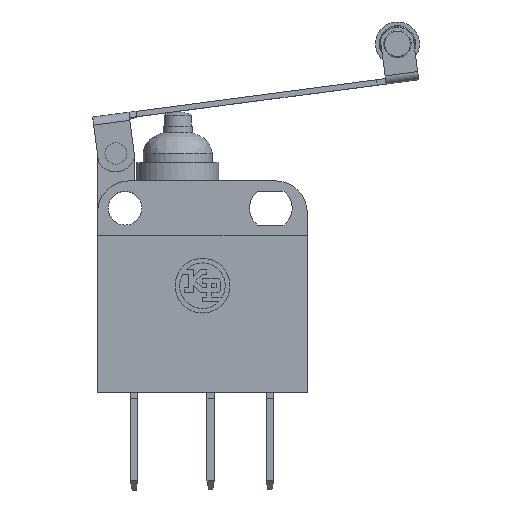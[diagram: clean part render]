
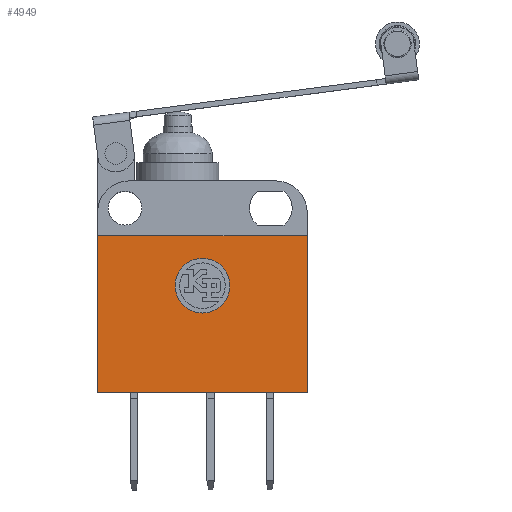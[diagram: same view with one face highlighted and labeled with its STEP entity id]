
A CAD part, top view. The second image highlights one B-rep face of the part: STEP entity #4949.
In plain terms, the highlighted planar face has unit normal (0, 0, 1).
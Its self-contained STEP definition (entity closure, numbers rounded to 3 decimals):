
#4234=CARTESIAN_POINT('',(20.,-3.,4.55));
#4235=VERTEX_POINT('',#4234);
#4242=CARTESIAN_POINT('',(20.,-20.2,4.55));
#4243=VERTEX_POINT('',#4242);
#4244=CARTESIAN_POINT('',(20.,-3.,4.55));
#4245=DIRECTION('',(0.0,-1.0,0.0));
#4246=VECTOR('',#4245,17.2);
#4247=LINE('',#4244,#4246);
#4248=EDGE_CURVE('',#4235,#4243,#4247,.T.);
#4417=CARTESIAN_POINT('',(-3.,-3.,4.55));
#4418=VERTEX_POINT('',#4417);
#4419=CARTESIAN_POINT('',(-3.,-3.,4.55));
#4420=DIRECTION('',(1.0,0.0,0.0));
#4421=VECTOR('',#4420,23.);
#4422=LINE('',#4419,#4421);
#4423=EDGE_CURVE('',#4418,#4235,#4422,.T.);
#4634=CARTESIAN_POINT('',(-3.,-20.2,4.55));
#4635=VERTEX_POINT('',#4634);
#4636=CARTESIAN_POINT('',(20.,-20.2,4.55));
#4637=DIRECTION('',(-1.0,0.0,0.0));
#4638=VECTOR('',#4637,23.);
#4639=LINE('',#4636,#4638);
#4640=EDGE_CURVE('',#4243,#4635,#4639,.T.);
#4922=CARTESIAN_POINT('',(8.5,-11.6,4.55));
#4923=DIRECTION('',(0.0,0.0,1.0));
#4924=DIRECTION('',(1.0,0.0,0.0));
#4925=AXIS2_PLACEMENT_3D('',#4922,#4923,#4924);
#4926=PLANE('',#4925);
#4927=ORIENTED_EDGE('',*,*,#4248,.F.);
#4928=ORIENTED_EDGE('',*,*,#4423,.F.);
#4929=CARTESIAN_POINT('',(-3.,-20.2,4.55));
#4930=DIRECTION('',(0.0,1.0,0.0));
#4931=VECTOR('',#4930,17.2);
#4932=LINE('',#4929,#4931);
#4933=EDGE_CURVE('',#4635,#4418,#4932,.T.);
#4934=ORIENTED_EDGE('',*,*,#4933,.F.);
#4935=ORIENTED_EDGE('',*,*,#4640,.F.);
#4936=EDGE_LOOP('',(#4927,#4928,#4934,#4935));
#4937=FACE_OUTER_BOUND('',#4936,.T.);
#4938=CARTESIAN_POINT('',(11.5,-8.5,4.55));
#4939=VERTEX_POINT('',#4938);
#4940=CARTESIAN_POINT('',(8.5,-8.5,4.55));
#4941=DIRECTION('',(0.0,0.0,-1.0));
#4942=DIRECTION('',(-1.0,0.0,0.0));
#4943=AXIS2_PLACEMENT_3D('',#4940,#4941,#4942);
#4944=CIRCLE('',#4943,3.);
#4945=EDGE_CURVE('',#4939,#4939,#4944,.T.);
#4946=ORIENTED_EDGE('',*,*,#4945,.T.);
#4947=EDGE_LOOP('',(#4946));
#4948=FACE_BOUND('',#4947,.T.);
#4949=ADVANCED_FACE('',(#4937,#4948),#4926,.T.);
